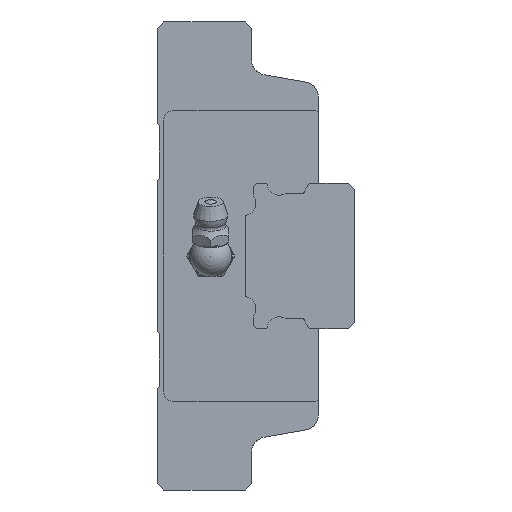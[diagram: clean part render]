
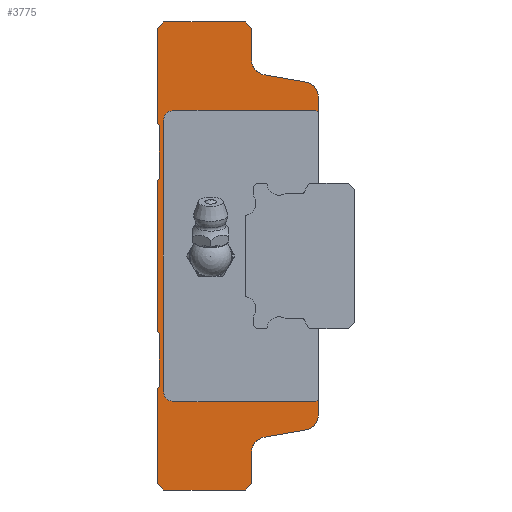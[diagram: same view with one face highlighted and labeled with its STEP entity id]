
A CAD part, left-side view. The second image highlights one B-rep face of the part: STEP entity #3775.
In plain terms, the highlighted planar face has unit normal (-1, 0, 0).
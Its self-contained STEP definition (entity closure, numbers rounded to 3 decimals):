
#170=CIRCLE('',#4056,3.);
#173=CIRCLE('',#4067,3.);
#185=CIRCLE('',#4085,3.);
#186=CIRCLE('',#4088,3.);
#193=CIRCLE('',#4120,2.);
#194=CIRCLE('',#4121,2.);
#858=ORIENTED_EDGE('',*,*,#1731,.F.);
#859=ORIENTED_EDGE('',*,*,#1643,.F.);
#860=ORIENTED_EDGE('',*,*,#1639,.F.);
#861=ORIENTED_EDGE('',*,*,#1677,.F.);
#862=ORIENTED_EDGE('',*,*,#1636,.T.);
#863=ORIENTED_EDGE('',*,*,#1575,.F.);
#864=ORIENTED_EDGE('',*,*,#1572,.F.);
#865=ORIENTED_EDGE('',*,*,#1668,.F.);
#866=ORIENTED_EDGE('',*,*,#1659,.F.);
#867=ORIENTED_EDGE('',*,*,#1722,.F.);
#868=ORIENTED_EDGE('',*,*,#1719,.F.);
#869=ORIENTED_EDGE('',*,*,#1716,.F.);
#870=ORIENTED_EDGE('',*,*,#1713,.F.);
#871=ORIENTED_EDGE('',*,*,#1710,.F.);
#872=ORIENTED_EDGE('',*,*,#1707,.F.);
#873=ORIENTED_EDGE('',*,*,#1704,.F.);
#874=ORIENTED_EDGE('',*,*,#1701,.F.);
#875=ORIENTED_EDGE('',*,*,#1698,.F.);
#876=ORIENTED_EDGE('',*,*,#1695,.F.);
#877=ORIENTED_EDGE('',*,*,#1691,.F.);
#878=ORIENTED_EDGE('',*,*,#1551,.F.);
#879=ORIENTED_EDGE('',*,*,#1548,.F.);
#880=ORIENTED_EDGE('',*,*,#1619,.T.);
#881=ORIENTED_EDGE('',*,*,#1612,.F.);
#882=ORIENTED_EDGE('',*,*,#1601,.F.);
#883=ORIENTED_EDGE('',*,*,#1658,.F.);
#884=ORIENTED_EDGE('',*,*,#1732,.F.);
#885=ORIENTED_EDGE('',*,*,#1733,.F.);
#886=ORIENTED_EDGE('',*,*,#1734,.F.);
#887=ORIENTED_EDGE('',*,*,#1735,.F.);
#888=ORIENTED_EDGE('',*,*,#1736,.F.);
#889=ORIENTED_EDGE('',*,*,#1737,.F.);
#1548=EDGE_CURVE('',#2053,#2051,#2415,.T.);
#1551=EDGE_CURVE('',#2051,#2055,#2418,.T.);
#1572=EDGE_CURVE('',#2075,#2073,#2431,.T.);
#1575=EDGE_CURVE('',#2073,#2077,#2434,.T.);
#1601=EDGE_CURVE('',#2095,#2096,#170,.T.);
#1612=EDGE_CURVE('',#2096,#2106,#2451,.T.);
#1619=EDGE_CURVE('',#2053,#2106,#173,.T.);
#1636=EDGE_CURVE('',#2123,#2077,#185,.T.);
#1639=EDGE_CURVE('',#2124,#2125,#186,.T.);
#1643=EDGE_CURVE('',#2125,#2128,#2459,.T.);
#1658=EDGE_CURVE('',#2139,#2095,#2472,.T.);
#1659=EDGE_CURVE('',#2140,#2141,#2473,.T.);
#1668=EDGE_CURVE('',#2141,#2075,#2482,.T.);
#1677=EDGE_CURVE('',#2123,#2124,#2491,.T.);
#1691=EDGE_CURVE('',#2055,#2160,#2504,.T.);
#1695=EDGE_CURVE('',#2160,#2162,#2508,.T.);
#1698=EDGE_CURVE('',#2162,#2164,#2511,.T.);
#1701=EDGE_CURVE('',#2164,#2166,#2514,.T.);
#1704=EDGE_CURVE('',#2166,#2168,#2517,.T.);
#1707=EDGE_CURVE('',#2168,#2170,#2520,.T.);
#1710=EDGE_CURVE('',#2170,#2172,#2523,.T.);
#1713=EDGE_CURVE('',#2172,#2174,#2526,.T.);
#1716=EDGE_CURVE('',#2174,#2176,#2529,.T.);
#1719=EDGE_CURVE('',#2176,#2178,#2532,.T.);
#1722=EDGE_CURVE('',#2178,#2140,#2535,.T.);
#1731=EDGE_CURVE('',#2128,#2186,#2542,.T.);
#1732=EDGE_CURVE('',#2187,#2139,#2543,.T.);
#1733=EDGE_CURVE('',#2188,#2187,#2544,.T.);
#1734=EDGE_CURVE('',#2189,#2188,#193,.F.);
#1735=EDGE_CURVE('',#2190,#2189,#2545,.T.);
#1736=EDGE_CURVE('',#2191,#2190,#194,.F.);
#1737=EDGE_CURVE('',#2186,#2191,#2546,.T.);
#2051=VERTEX_POINT('',#5701);
#2053=VERTEX_POINT('',#5705);
#2055=VERTEX_POINT('',#5710);
#2073=VERTEX_POINT('',#5770);
#2075=VERTEX_POINT('',#5774);
#2077=VERTEX_POINT('',#5779);
#2095=VERTEX_POINT('',#5855);
#2096=VERTEX_POINT('',#5857);
#2106=VERTEX_POINT('',#5899);
#2123=VERTEX_POINT('',#5960);
#2124=VERTEX_POINT('',#5965);
#2125=VERTEX_POINT('',#5967);
#2128=VERTEX_POINT('',#5976);
#2139=VERTEX_POINT('',#6002);
#2140=VERTEX_POINT('',#6006);
#2141=VERTEX_POINT('',#6007);
#2160=VERTEX_POINT('',#6066);
#2162=VERTEX_POINT('',#6073);
#2164=VERTEX_POINT('',#6079);
#2166=VERTEX_POINT('',#6085);
#2168=VERTEX_POINT('',#6091);
#2170=VERTEX_POINT('',#6097);
#2172=VERTEX_POINT('',#6103);
#2174=VERTEX_POINT('',#6109);
#2176=VERTEX_POINT('',#6115);
#2178=VERTEX_POINT('',#6121);
#2186=VERTEX_POINT('',#6144);
#2187=VERTEX_POINT('',#6146);
#2188=VERTEX_POINT('',#6148);
#2189=VERTEX_POINT('',#6150);
#2190=VERTEX_POINT('',#6152);
#2191=VERTEX_POINT('',#6154);
#2415=LINE('',#5706,#2739);
#2418=LINE('',#5712,#2742);
#2431=LINE('',#5775,#2755);
#2434=LINE('',#5781,#2758);
#2451=LINE('',#5898,#2775);
#2459=LINE('',#5975,#2783);
#2472=LINE('',#6003,#2796);
#2473=LINE('',#6005,#2797);
#2482=LINE('',#6023,#2806);
#2491=LINE('',#6039,#2815);
#2504=LINE('',#6065,#2828);
#2508=LINE('',#6072,#2832);
#2511=LINE('',#6078,#2835);
#2514=LINE('',#6084,#2838);
#2517=LINE('',#6090,#2841);
#2520=LINE('',#6096,#2844);
#2523=LINE('',#6102,#2847);
#2526=LINE('',#6108,#2850);
#2529=LINE('',#6114,#2853);
#2532=LINE('',#6120,#2856);
#2535=LINE('',#6126,#2859);
#2542=LINE('',#6143,#2866);
#2543=LINE('',#6145,#2867);
#2544=LINE('',#6147,#2868);
#2545=LINE('',#6151,#2869);
#2546=LINE('',#6155,#2870);
#2739=VECTOR('',#4599,1000.);
#2742=VECTOR('',#4604,1000.);
#2755=VECTOR('',#4633,1000.);
#2758=VECTOR('',#4638,1000.);
#2775=VECTOR('',#4699,1000.);
#2783=VECTOR('',#4769,1000.);
#2796=VECTOR('',#4788,1000.);
#2797=VECTOR('',#4791,1000.);
#2806=VECTOR('',#4802,1000.);
#2815=VECTOR('',#4817,1000.);
#2828=VECTOR('',#4840,1000.);
#2832=VECTOR('',#4846,1000.);
#2835=VECTOR('',#4851,1000.);
#2838=VECTOR('',#4856,1000.);
#2841=VECTOR('',#4861,1000.);
#2844=VECTOR('',#4866,1000.);
#2847=VECTOR('',#4871,1000.);
#2850=VECTOR('',#4876,1000.);
#2853=VECTOR('',#4881,1000.);
#2856=VECTOR('',#4886,1000.);
#2859=VECTOR('',#4891,1000.);
#2866=VECTOR('',#4906,1000.);
#2867=VECTOR('',#4907,1000.);
#2868=VECTOR('',#4908,1000.);
#2869=VECTOR('',#4911,1000.);
#2870=VECTOR('',#4914,1000.);
#3115=EDGE_LOOP('',(#858,#859,#860,#861,#862,#863,#864,#865,#866,#867,#868,
#869,#870,#871,#872,#873,#874,#875,#876,#877,#878,#879,#880,#881,#882,#883,
#884,#885,#886,#887,#888,#889));
#3398=FACE_BOUND('',#3115,.T.);
#3613=PLANE('',#4119);
#3775=ADVANCED_FACE('',(#3398),#3613,.F.);
#4056=AXIS2_PLACEMENT_3D('',#5856,#4682,#4683);
#4067=AXIS2_PLACEMENT_3D('',#5914,#4712,#4713);
#4085=AXIS2_PLACEMENT_3D('',#5959,#4750,#4751);
#4088=AXIS2_PLACEMENT_3D('',#5966,#4758,#4759);
#4119=AXIS2_PLACEMENT_3D('',#6142,#4904,#4905);
#4120=AXIS2_PLACEMENT_3D('',#6149,#4909,#4910);
#4121=AXIS2_PLACEMENT_3D('',#6153,#4912,#4913);
#4599=DIRECTION('',(0.,0.,-1.));
#4604=DIRECTION('',(0.,0.707,-0.707));
#4633=DIRECTION('',(0.,-0.707,-0.707));
#4638=DIRECTION('',(0.,0.,-1.));
#4682=DIRECTION('',(1.,0.,0.));
#4683=DIRECTION('',(0.,0.,-1.));
#4699=DIRECTION('',(0.,0.985,-0.173));
#4712=DIRECTION('',(1.,0.,0.));
#4713=DIRECTION('',(0.,0.,-1.));
#4750=DIRECTION('',(1.,0.,0.));
#4751=DIRECTION('',(0.,0.,-1.));
#4758=DIRECTION('',(1.,0.,0.));
#4759=DIRECTION('',(0.,0.,-1.));
#4769=DIRECTION('',(0.,0.,-1.));
#4788=DIRECTION('',(0.,0.,-1.));
#4791=DIRECTION('',(0.,-0.707,0.707));
#4802=DIRECTION('',(0.,-1.,0.));
#4817=DIRECTION('',(0.,-0.985,-0.173));
#4840=DIRECTION('',(0.,1.,0.));
#4846=DIRECTION('',(0.,0.707,0.707));
#4851=DIRECTION('',(0.,0.,1.));
#4856=DIRECTION('',(0.,-0.717,0.697));
#4861=DIRECTION('',(0.,0.,1.));
#4866=DIRECTION('',(0.,0.717,0.697));
#4871=DIRECTION('',(0.,0.,1.));
#4876=DIRECTION('',(0.,-0.717,0.697));
#4881=DIRECTION('',(0.,0.,1.));
#4886=DIRECTION('',(0.,0.717,0.697));
#4891=DIRECTION('',(0.,0.,1.));
#4904=DIRECTION('',(1.,0.,0.));
#4905=DIRECTION('',(0.,0.,-1.));
#4906=DIRECTION('',(0.,0.707,0.707));
#4907=DIRECTION('',(0.,-0.707,0.707));
#4908=DIRECTION('',(0.,-1.,0.));
#4909=DIRECTION('',(1.,0.,0.));
#4910=DIRECTION('',(0.,0.,-1.));
#4911=DIRECTION('',(0.,0.,-1.));
#4912=DIRECTION('',(1.,0.,0.));
#4913=DIRECTION('',(0.,0.,-1.));
#4914=DIRECTION('',(0.,1.,0.));
#5701=CARTESIAN_POINT('',(-36.05,12.9,-43.8));
#5705=CARTESIAN_POINT('',(-36.05,12.9,-37.8));
#5706=CARTESIAN_POINT('',(-36.05,12.9,-37.8));
#5710=CARTESIAN_POINT('',(-36.05,14.1,-45.));
#5712=CARTESIAN_POINT('',(-36.05,12.9,-43.8));
#5770=CARTESIAN_POINT('',(-36.05,12.9,43.8));
#5774=CARTESIAN_POINT('',(-36.05,14.1,45.));
#5775=CARTESIAN_POINT('',(-36.05,14.1,45.));
#5779=CARTESIAN_POINT('',(-36.05,12.9,37.8));
#5781=CARTESIAN_POINT('',(-36.05,12.9,43.8));
#5855=CARTESIAN_POINT('',(-36.05,0.,-30.5));
#5856=CARTESIAN_POINT('',(-36.05,3.,-30.5));
#5857=CARTESIAN_POINT('',(-36.05,2.482,-33.455));
#5898=CARTESIAN_POINT('',(-36.05,2.482,-33.455));
#5899=CARTESIAN_POINT('',(-36.05,10.418,-34.845));
#5914=CARTESIAN_POINT('',(-36.05,9.9,-37.8));
#5959=CARTESIAN_POINT('',(-36.05,9.9,37.8));
#5960=CARTESIAN_POINT('',(-36.05,10.418,34.845));
#5965=CARTESIAN_POINT('',(-36.05,2.482,33.455));
#5966=CARTESIAN_POINT('',(-36.05,3.,30.5));
#5967=CARTESIAN_POINT('',(-36.05,0.,30.5));
#5975=CARTESIAN_POINT('',(-36.05,0.,30.5));
#5976=CARTESIAN_POINT('',(-36.05,0.,27.5));
#6002=CARTESIAN_POINT('',(-36.05,0.,-27.5));
#6003=CARTESIAN_POINT('',(-36.05,0.,30.5));
#6005=CARTESIAN_POINT('',(-36.05,31.,43.7));
#6006=CARTESIAN_POINT('',(-36.05,31.,43.7));
#6007=CARTESIAN_POINT('',(-36.05,29.7,45.));
#6023=CARTESIAN_POINT('',(-36.05,29.7,45.));
#6039=CARTESIAN_POINT('',(-36.05,10.418,34.845));
#6065=CARTESIAN_POINT('',(-36.05,14.1,-45.));
#6066=CARTESIAN_POINT('',(-36.05,29.7,-45.));
#6072=CARTESIAN_POINT('',(-36.05,29.7,-45.));
#6073=CARTESIAN_POINT('',(-36.05,31.,-43.7));
#6078=CARTESIAN_POINT('',(-36.05,31.,-43.7));
#6079=CARTESIAN_POINT('',(-36.05,31.,-25.4));
#6084=CARTESIAN_POINT('',(-36.05,31.,-25.4));
#6085=CARTESIAN_POINT('',(-36.05,30.6,-25.011));
#6090=CARTESIAN_POINT('',(-36.05,30.6,-25.011));
#6091=CARTESIAN_POINT('',(-36.05,30.6,-14.989));
#6096=CARTESIAN_POINT('',(-36.05,30.6,-14.989));
#6097=CARTESIAN_POINT('',(-36.05,31.,-14.6));
#6102=CARTESIAN_POINT('',(-36.05,31.,-14.6));
#6103=CARTESIAN_POINT('',(-36.05,31.,14.6));
#6108=CARTESIAN_POINT('',(-36.05,31.,14.6));
#6109=CARTESIAN_POINT('',(-36.05,30.6,14.989));
#6114=CARTESIAN_POINT('',(-36.05,30.6,14.989));
#6115=CARTESIAN_POINT('',(-36.05,30.6,25.011));
#6120=CARTESIAN_POINT('',(-36.05,30.6,25.011));
#6121=CARTESIAN_POINT('',(-36.05,31.,25.4));
#6126=CARTESIAN_POINT('',(-36.05,31.,25.4));
#6142=CARTESIAN_POINT('',(-36.05,9.9,37.8));
#6143=CARTESIAN_POINT('',(-36.05,10.1,37.6));
#6144=CARTESIAN_POINT('',(-36.05,0.5,28.));
#6145=CARTESIAN_POINT('',(-36.05,-27.7,0.2));
#6146=CARTESIAN_POINT('',(-36.05,0.5,-28.));
#6147=CARTESIAN_POINT('',(-36.05,9.9,-28.));
#6148=CARTESIAN_POINT('',(-36.05,27.8,-28.));
#6149=CARTESIAN_POINT('',(-36.05,27.8,-26.));
#6150=CARTESIAN_POINT('',(-36.05,29.8,-26.));
#6151=CARTESIAN_POINT('',(-36.05,29.8,37.8));
#6152=CARTESIAN_POINT('',(-36.05,29.8,26.));
#6153=CARTESIAN_POINT('',(-36.05,27.8,26.));
#6154=CARTESIAN_POINT('',(-36.05,27.8,28.));
#6155=CARTESIAN_POINT('',(-36.05,9.9,28.));
